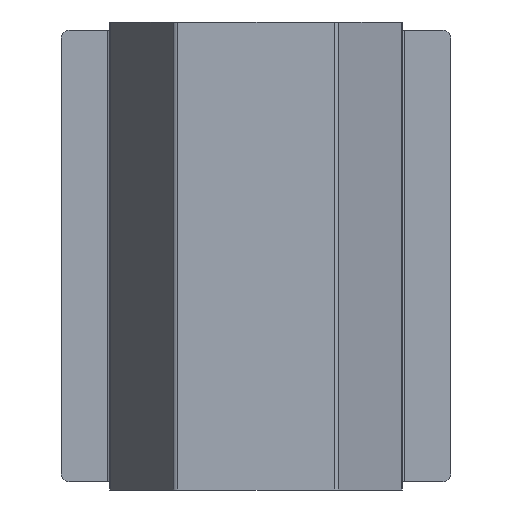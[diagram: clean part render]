
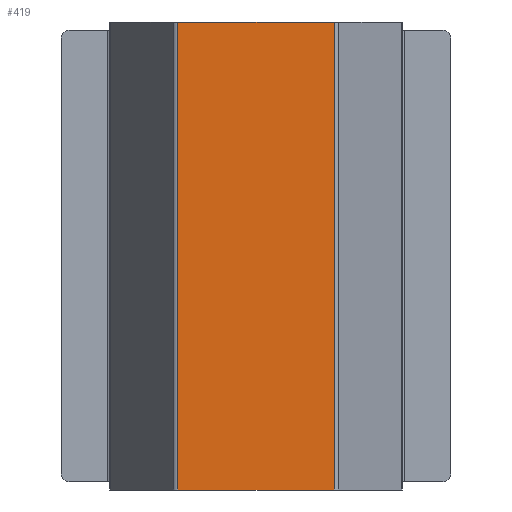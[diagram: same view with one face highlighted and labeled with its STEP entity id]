
A CAD part, front view. The second image highlights one B-rep face of the part: STEP entity #419.
In plain terms, the highlighted planar face has unit normal (0, -1, 0).
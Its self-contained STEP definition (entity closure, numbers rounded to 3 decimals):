
#51 = EDGE_CURVE ( 'NONE', #2176, #467, #1623, .T. ) ;
#93 = EDGE_CURVE ( 'NONE', #1884, #2176, #999, .T. ) ;
#122 = CARTESIAN_POINT ( 'NONE',  ( -48.268, 0., 288. ) ) ;
#139 = DIRECTION ( 'NONE',  ( 0., 0., 1. ) ) ;
#240 = VECTOR ( 'NONE', #1528, 1000. ) ;
#288 = CARTESIAN_POINT ( 'NONE',  ( 48.268, 0., 0. ) ) ;
#373 = LINE ( 'NONE', #769, #2005 ) ;
#419 = ADVANCED_FACE ( 'NONE', ( #836 ), #934, .F. ) ;
#467 = VERTEX_POINT ( 'NONE', #288 ) ;
#527 = VERTEX_POINT ( 'NONE', #2053 ) ;
#541 = ORIENTED_EDGE ( 'NONE', *, *, #1769, .T. ) ;
#712 = VECTOR ( 'NONE', #839, 1000. ) ;
#769 = CARTESIAN_POINT ( 'NONE',  ( -48.268, 0., 288. ) ) ;
#790 = DIRECTION ( 'NONE',  ( 1., 0., 0. ) ) ;
#836 = FACE_OUTER_BOUND ( 'NONE', #893, .T. ) ;
#839 = DIRECTION ( 'NONE',  ( 0., 0., -1. ) ) ;
#846 = CARTESIAN_POINT ( 'NONE',  ( -50., 0., 288. ) ) ;
#893 = EDGE_LOOP ( 'NONE', ( #541, #1039, #1812, #1286 ) ) ;
#934 = PLANE ( 'NONE',  #989 ) ;
#989 = AXIS2_PLACEMENT_3D ( 'NONE', #1001, #2011, #139 ) ;
#999 = LINE ( 'NONE', #846, #240 ) ;
#1001 = CARTESIAN_POINT ( 'NONE',  ( -50., 0., 288. ) ) ;
#1022 = VECTOR ( 'NONE', #790, 1000. ) ;
#1039 = ORIENTED_EDGE ( 'NONE', *, *, #51, .F. ) ;
#1286 = ORIENTED_EDGE ( 'NONE', *, *, #2143, .T. ) ;
#1351 = CARTESIAN_POINT ( 'NONE',  ( -50., 0., 0. ) ) ;
#1458 = DIRECTION ( 'NONE',  ( 0., 0., -1. ) ) ;
#1528 = DIRECTION ( 'NONE',  ( 1., 0., 0. ) ) ;
#1623 = LINE ( 'NONE', #2050, #712 ) ;
#1645 = CARTESIAN_POINT ( 'NONE',  ( 48.268, 0., 288. ) ) ;
#1769 = EDGE_CURVE ( 'NONE', #527, #467, #2210, .T. ) ;
#1812 = ORIENTED_EDGE ( 'NONE', *, *, #93, .F. ) ;
#1884 = VERTEX_POINT ( 'NONE', #122 ) ;
#2005 = VECTOR ( 'NONE', #1458, 1000. ) ;
#2011 = DIRECTION ( 'NONE',  ( 0., 1., 0. ) ) ;
#2050 = CARTESIAN_POINT ( 'NONE',  ( 48.268, 0., 288. ) ) ;
#2053 = CARTESIAN_POINT ( 'NONE',  ( -48.268, 0., 0. ) ) ;
#2143 = EDGE_CURVE ( 'NONE', #1884, #527, #373, .T. ) ;
#2176 = VERTEX_POINT ( 'NONE', #1645 ) ;
#2210 = LINE ( 'NONE', #1351, #1022 ) ;
